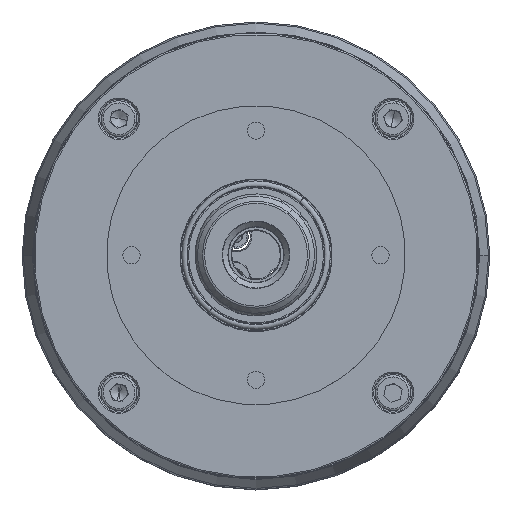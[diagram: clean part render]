
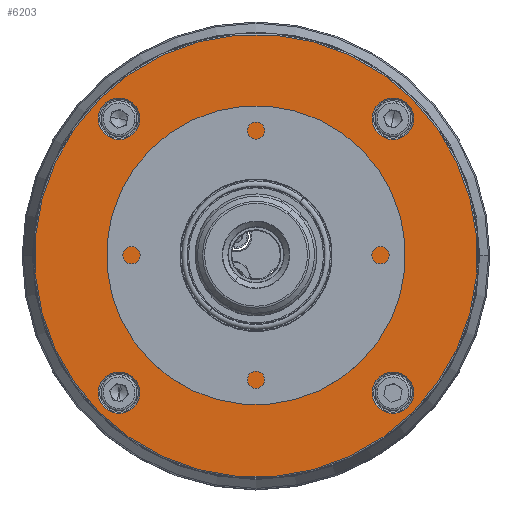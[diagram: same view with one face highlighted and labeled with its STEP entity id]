
A CAD part, top view. The second image highlights one B-rep face of the part: STEP entity #6203.
In plain terms, the highlighted planar face has unit normal (0, 0, 1).
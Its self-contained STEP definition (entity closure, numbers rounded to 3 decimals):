
#762 = ORIENTED_EDGE ( 'NONE', *, *, #22884, .T. ) ;
#801 = CIRCLE ( 'NONE', #16729, 7.5 ) ;
#953 = CARTESIAN_POINT ( 'NONE',  ( -44.194, 44.194, 89.5 ) ) ;
#1122 = DIRECTION ( 'NONE',  ( 0.707, -0.707, 0. ) ) ;
#1999 = DIRECTION ( 'NONE',  ( 0., 0., -1. ) ) ;
#2358 = ORIENTED_EDGE ( 'NONE', *, *, #22231, .T. ) ;
#2411 = DIRECTION ( 'NONE',  ( 0.707, -0.707, 0. ) ) ;
#2429 = AXIS2_PLACEMENT_3D ( 'NONE', #16401, #5161, #5571 ) ;
#2470 = DIRECTION ( 'NONE',  ( 0., 0., -1. ) ) ;
#2545 = AXIS2_PLACEMENT_3D ( 'NONE', #10973, #2470, #26317 ) ;
#2677 = CARTESIAN_POINT ( 'NONE',  ( 0., 0., 89.5 ) ) ;
#3257 = DIRECTION ( 'NONE',  ( 0.707, -0.707, 0. ) ) ;
#3767 = DIRECTION ( 'NONE',  ( 0., 0., -1. ) ) ;
#4700 = DIRECTION ( 'NONE',  ( 0.707, -0.707, 0. ) ) ;
#4869 = ORIENTED_EDGE ( 'NONE', *, *, #11491, .T. ) ;
#5157 = VERTEX_POINT ( 'NONE', #7871 ) ;
#5161 = DIRECTION ( 'NONE',  ( 0., 0., 1. ) ) ;
#5419 = CIRCLE ( 'NONE', #21338, 7.5 ) ;
#5532 = AXIS2_PLACEMENT_3D ( 'NONE', #22773, #23204, #1122 ) ;
#5535 = VERTEX_POINT ( 'NONE', #26397 ) ;
#5571 = DIRECTION ( 'NONE',  ( 0.707, -0.707, 0. ) ) ;
#5831 = VERTEX_POINT ( 'NONE', #23637 ) ;
#6203 = ADVANCED_FACE ( 'NONE', ( #18130, #18273, #18551, #11807, #11949, #24997 ), #14086, .T. ) ;
#7175 = CIRCLE ( 'NONE', #14943, 80. ) ;
#7337 = EDGE_CURVE ( 'NONE', #7417, #5157, #11950, .T. ) ;
#7354 = CIRCLE ( 'NONE', #11448, 7.5 ) ;
#7417 = VERTEX_POINT ( 'NONE', #15416 ) ;
#7871 = CARTESIAN_POINT ( 'NONE',  ( 54.801, 44.194, 89.5 ) ) ;
#8082 = CARTESIAN_POINT ( 'NONE',  ( 49.497, -49.497, 89.5 ) ) ;
#8111 = EDGE_CURVE ( 'NONE', #27891, #18833, #9763, .T. ) ;
#8132 = DIRECTION ( 'NONE',  ( 0., 0., -1. ) ) ;
#8133 = AXIS2_PLACEMENT_3D ( 'NONE', #11278, #1999, #22710 ) ;
#9763 = CIRCLE ( 'NONE', #22014, 80. ) ;
#9939 = EDGE_LOOP ( 'NONE', ( #762, #19599 ) ) ;
#10017 = ORIENTED_EDGE ( 'NONE', *, *, #20213, .T. ) ;
#10557 = EDGE_CURVE ( 'NONE', #20138, #21604, #16557, .T. ) ;
#10795 = DIRECTION ( 'NONE',  ( 0.707, -0.707, 0. ) ) ;
#10973 = CARTESIAN_POINT ( 'NONE',  ( -49.497, 49.497, 89.5 ) ) ;
#11002 = CARTESIAN_POINT ( 'NONE',  ( 44.194, -44.194, 89.5 ) ) ;
#11273 = CIRCLE ( 'NONE', #8133, 7.5 ) ;
#11278 = CARTESIAN_POINT ( 'NONE',  ( 49.497, 49.497, 89.5 ) ) ;
#11448 = AXIS2_PLACEMENT_3D ( 'NONE', #17529, #15524, #2411 ) ;
#11491 = EDGE_CURVE ( 'NONE', #5535, #17194, #21179, .T. ) ;
#11567 = ORIENTED_EDGE ( 'NONE', *, *, #10557, .T. ) ;
#11807 = FACE_BOUND ( 'NONE', #18403, .T. ) ;
#11949 = FACE_BOUND ( 'NONE', #18385, .T. ) ;
#11950 = CIRCLE ( 'NONE', #26159, 7.5 ) ;
#12379 = CARTESIAN_POINT ( 'NONE',  ( -49.497, 49.497, 89.5 ) ) ;
#12652 = ORIENTED_EDGE ( 'NONE', *, *, #24829, .T. ) ;
#13386 = EDGE_LOOP ( 'NONE', ( #23017, #17991 ) ) ;
#13962 = CARTESIAN_POINT ( 'NONE',  ( 28.701, -28.701, 89.5 ) ) ;
#14086 = PLANE ( 'NONE',  #2429 ) ;
#14523 = VERTEX_POINT ( 'NONE', #953 ) ;
#14540 = DIRECTION ( 'NONE',  ( 0.707, -0.707, 0. ) ) ;
#14613 = EDGE_CURVE ( 'NONE', #18833, #27891, #7175, .T. ) ;
#14871 = DIRECTION ( 'NONE',  ( 0., 0., 1. ) ) ;
#14943 = AXIS2_PLACEMENT_3D ( 'NONE', #23181, #14871, #23594 ) ;
#15049 = CARTESIAN_POINT ( 'NONE',  ( -56.569, 56.569, 89.5 ) ) ;
#15416 = CARTESIAN_POINT ( 'NONE',  ( 44.194, 54.801, 89.5 ) ) ;
#15524 = DIRECTION ( 'NONE',  ( 0., 0., -1. ) ) ;
#15534 = ORIENTED_EDGE ( 'NONE', *, *, #20050, .T. ) ;
#15589 = ORIENTED_EDGE ( 'NONE', *, *, #27365, .T. ) ;
#16001 = CIRCLE ( 'NONE', #5532, 40.59 ) ;
#16401 = CARTESIAN_POINT ( 'NONE',  ( 26.517, 26.517, 89.5 ) ) ;
#16557 = CIRCLE ( 'NONE', #21542, 40.59 ) ;
#16729 = AXIS2_PLACEMENT_3D ( 'NONE', #12379, #8132, #20981 ) ;
#16775 = CARTESIAN_POINT ( 'NONE',  ( 0., 0., 89.5 ) ) ;
#17194 = VERTEX_POINT ( 'NONE', #11002 ) ;
#17529 = CARTESIAN_POINT ( 'NONE',  ( -49.497, -49.497, 89.5 ) ) ;
#17630 = EDGE_CURVE ( 'NONE', #27949, #5831, #7354, .T. ) ;
#17833 = VERTEX_POINT ( 'NONE', #27223 ) ;
#17908 = EDGE_LOOP ( 'NONE', ( #2358, #15534 ) ) ;
#17991 = ORIENTED_EDGE ( 'NONE', *, *, #8111, .T. ) ;
#18130 = FACE_BOUND ( 'NONE', #17908, .T. ) ;
#18273 = FACE_BOUND ( 'NONE', #9939, .T. ) ;
#18385 = EDGE_LOOP ( 'NONE', ( #15589, #11567 ) ) ;
#18403 = EDGE_LOOP ( 'NONE', ( #20112, #12652 ) ) ;
#18551 = FACE_BOUND ( 'NONE', #23502, .T. ) ;
#18833 = VERTEX_POINT ( 'NONE', #19686 ) ;
#18941 = DIRECTION ( 'NONE',  ( 0.707, -0.707, 0. ) ) ;
#19117 = CARTESIAN_POINT ( 'NONE',  ( 49.497, 49.497, 89.5 ) ) ;
#19599 = ORIENTED_EDGE ( 'NONE', *, *, #7337, .T. ) ;
#19686 = CARTESIAN_POINT ( 'NONE',  ( 56.569, -56.569, 89.5 ) ) ;
#19888 = CARTESIAN_POINT ( 'NONE',  ( -44.194, -54.801, 89.5 ) ) ;
#19897 = AXIS2_PLACEMENT_3D ( 'NONE', #20819, #21096, #18941 ) ;
#20050 = EDGE_CURVE ( 'NONE', #17833, #14523, #28097, .T. ) ;
#20112 = ORIENTED_EDGE ( 'NONE', *, *, #17630, .T. ) ;
#20138 = VERTEX_POINT ( 'NONE', #27132 ) ;
#20213 = EDGE_CURVE ( 'NONE', #17194, #5535, #20800, .T. ) ;
#20776 = DIRECTION ( 'NONE',  ( 0.707, -0.707, 0. ) ) ;
#20800 = CIRCLE ( 'NONE', #19897, 7.5 ) ;
#20819 = CARTESIAN_POINT ( 'NONE',  ( 49.497, -49.497, 89.5 ) ) ;
#20981 = DIRECTION ( 'NONE',  ( 0.707, -0.707, 0. ) ) ;
#21096 = DIRECTION ( 'NONE',  ( 0., 0., -1. ) ) ;
#21179 = CIRCLE ( 'NONE', #22986, 7.5 ) ;
#21207 = DIRECTION ( 'NONE',  ( 0., 0., -1. ) ) ;
#21338 = AXIS2_PLACEMENT_3D ( 'NONE', #21920, #23955, #10795 ) ;
#21542 = AXIS2_PLACEMENT_3D ( 'NONE', #2677, #22326, #4700 ) ;
#21604 = VERTEX_POINT ( 'NONE', #13962 ) ;
#21920 = CARTESIAN_POINT ( 'NONE',  ( -49.497, -49.497, 89.5 ) ) ;
#22014 = AXIS2_PLACEMENT_3D ( 'NONE', #16775, #27521, #20776 ) ;
#22231 = EDGE_CURVE ( 'NONE', #14523, #17833, #801, .T. ) ;
#22326 = DIRECTION ( 'NONE',  ( 0., 0., -1. ) ) ;
#22710 = DIRECTION ( 'NONE',  ( 0.707, -0.707, 0. ) ) ;
#22773 = CARTESIAN_POINT ( 'NONE',  ( 0., 0., 89.5 ) ) ;
#22884 = EDGE_CURVE ( 'NONE', #5157, #7417, #11273, .T. ) ;
#22986 = AXIS2_PLACEMENT_3D ( 'NONE', #8082, #21207, #3257 ) ;
#23017 = ORIENTED_EDGE ( 'NONE', *, *, #14613, .T. ) ;
#23181 = CARTESIAN_POINT ( 'NONE',  ( 0., 0., 89.5 ) ) ;
#23204 = DIRECTION ( 'NONE',  ( 0., 0., -1. ) ) ;
#23502 = EDGE_LOOP ( 'NONE', ( #4869, #10017 ) ) ;
#23594 = DIRECTION ( 'NONE',  ( 0.707, -0.707, 0. ) ) ;
#23637 = CARTESIAN_POINT ( 'NONE',  ( -54.801, -44.194, 89.5 ) ) ;
#23955 = DIRECTION ( 'NONE',  ( 0., 0., -1. ) ) ;
#24829 = EDGE_CURVE ( 'NONE', #5831, #27949, #5419, .T. ) ;
#24997 = FACE_OUTER_BOUND ( 'NONE', #13386, .T. ) ;
#26159 = AXIS2_PLACEMENT_3D ( 'NONE', #19117, #3767, #14540 ) ;
#26317 = DIRECTION ( 'NONE',  ( 0.707, -0.707, 0. ) ) ;
#26397 = CARTESIAN_POINT ( 'NONE',  ( 54.801, -54.801, 89.5 ) ) ;
#27132 = CARTESIAN_POINT ( 'NONE',  ( -28.701, 28.701, 89.5 ) ) ;
#27223 = CARTESIAN_POINT ( 'NONE',  ( -54.801, 54.801, 89.5 ) ) ;
#27365 = EDGE_CURVE ( 'NONE', #21604, #20138, #16001, .T. ) ;
#27521 = DIRECTION ( 'NONE',  ( 0., 0., 1. ) ) ;
#27891 = VERTEX_POINT ( 'NONE', #15049 ) ;
#27949 = VERTEX_POINT ( 'NONE', #19888 ) ;
#28097 = CIRCLE ( 'NONE', #2545, 7.5 ) ;
